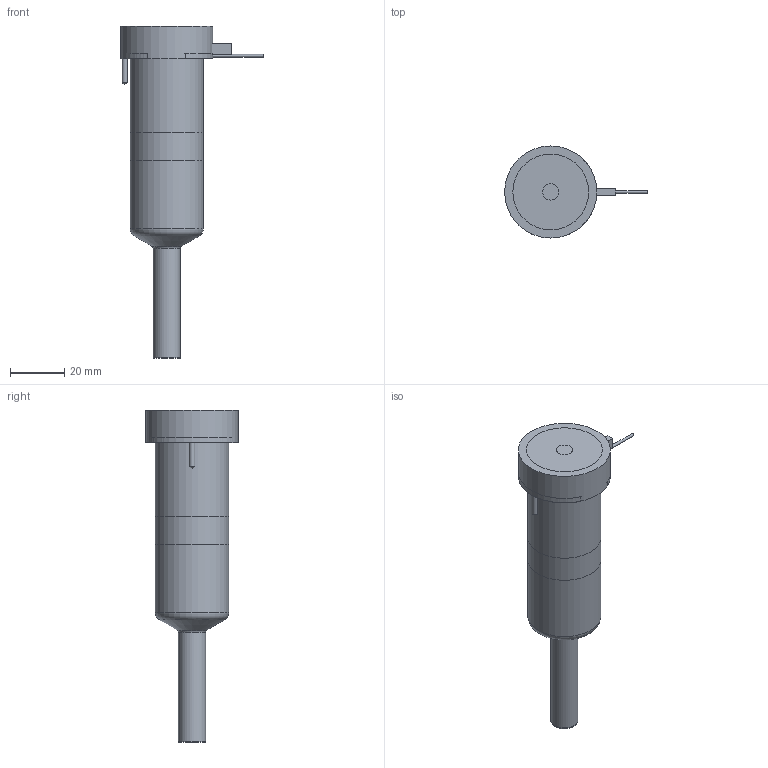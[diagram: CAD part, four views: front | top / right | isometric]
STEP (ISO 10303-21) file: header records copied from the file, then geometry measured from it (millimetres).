
FILE_DESCRIPTION(/* description */ (''),/* implementation_level */ '2;1');
FILE_NAME(/* name */ 'BXTSL-BXISL-BXOSL13075_250C_b',/* time_stamp */ '2008-04-29T14:05:55+12:00',/* author */ (''),/* organization */ (''),/* preprocessor_version */ 'ST-DEVELOPER v9',/* originating_system */ 'UGS - NX 4.0',/* authorisation */ '');
FILE_SCHEMA (('CONFIG_CONTROL_DESIGN'));
Length unit declared in the file: millimetre
Products named in the file (1): BXTSL-BXISL-BXOSL13075_250C_b
Bounding box: 52.65 x 34 x 122.56 mm (x, y, z)
Volume: 96987.7 mm3; surface area: 21962.6 mm2
Topology: 6 solids, 6 shells, 73 faces, 141 edges, 91 vertices
Faces by surface type: plane 34, cylinder 23, cone 8, torus 7, bspline 1
Full cylindrical faces by diameter (mm): 0.9 x1, 1 x3, 2 x2, 6 x1, 9.61 x1, 10.01 x2, 12.6 x1, 22.2 x1, 27 x2, 34 x1
Entity records: 1806 total; most frequent: CARTESIAN_POINT 357, DIRECTION 304, ORIENTED_EDGE 210, AXIS2_PLACEMENT_3D 134, EDGE_LOOP 112, EDGE_CURVE 105, VERTEX_POINT 84, ADVANCED_FACE 73
